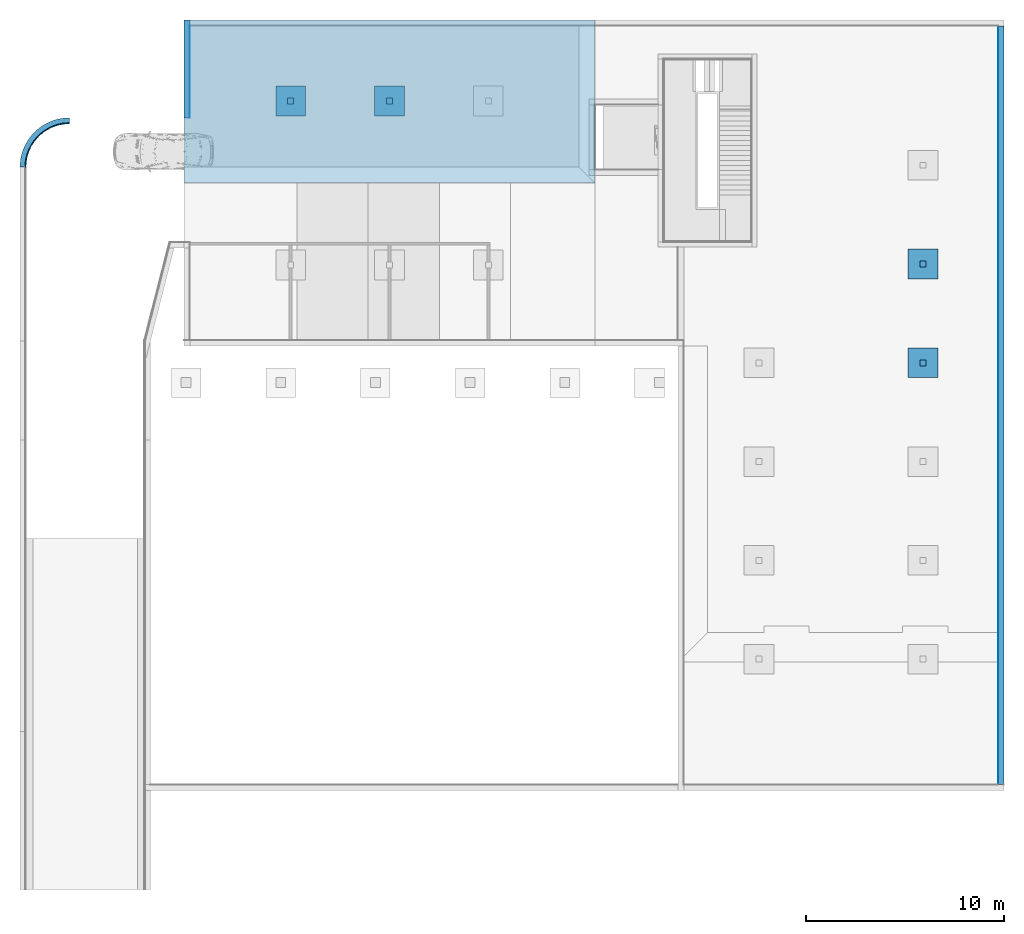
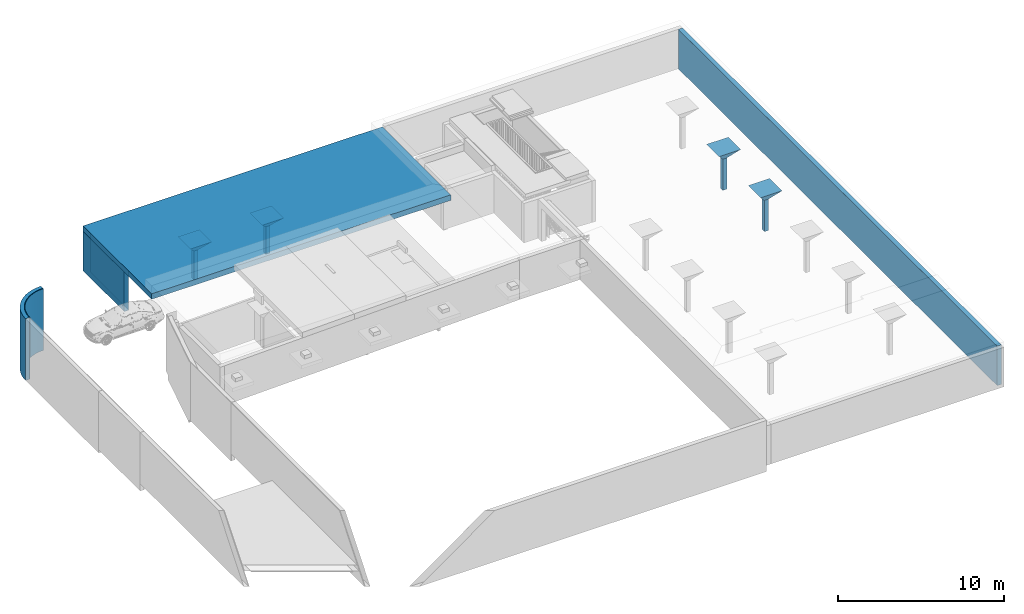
# One storey, part 4 of 7: 15 building element parts, 8 elements without a shape of their own.
"""IFC4 building model written with IfcOpenShell, lengths in millimetres."""

from ifc_helpers import new_model, entity, si_unit, converted_unit, derived_unit, direction, frame, origin_with_axes, place, context, subcontext, project, spatial, polygons, material, type_object, element, aggregate, save


model = new_model("IFC4")

# Units and contexts
model_context = context("Model", 3, precision=0.01, world=origin_with_axes(), true_north=direction((0.0, 1.0)))
body_context = subcontext(model_context, "Body", "Model", "MODEL_VIEW")
ifc_project = project(units=[si_unit("LENGTHUNIT", "METRE", prefix="MILLI"), si_unit("AREAUNIT", "SQUARE_METRE"), si_unit("VOLUMEUNIT", "CUBIC_METRE"), converted_unit("PLANEANGLEUNIT", "DEGREE", entity("IfcPlaneAngleMeasure", 0.0174532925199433), si_unit("PLANEANGLEUNIT", "RADIAN"), dimensions=[0, 0, 0, 0, 0, 0, 0]), converted_unit("TIMEUNIT", "Year", entity("IfcTimeMeasure", 31557600.0), si_unit("TIMEUNIT", "SECOND"), dimensions=[0, 0, 1, 0, 0, 0, 0]), si_unit("MASSUNIT", "GRAM", prefix="KILO"), si_unit("THERMODYNAMICTEMPERATUREUNIT", "DEGREE_CELSIUS"), si_unit("LUMINOUSINTENSITYUNIT", "LUMEN"), si_unit("ENERGYUNIT", "JOULE", prefix="MEGA"), derived_unit("THERMALCONDUCTANCEUNIT", [(si_unit("POWERUNIT", "WATT"), 1), (si_unit("LENGTHUNIT", "METRE"), -1), (si_unit("THERMODYNAMICTEMPERATUREUNIT", "KELVIN"), -1)]), derived_unit("SPECIFICHEATCAPACITYUNIT", [(si_unit("ENERGYUNIT", "JOULE"), 1), (si_unit("MASSUNIT", "GRAM", prefix="KILO"), -1), (si_unit("THERMODYNAMICTEMPERATUREUNIT", "KELVIN"), -1)]), derived_unit("MASSDENSITYUNIT", [(si_unit("MASSUNIT", "GRAM", prefix="KILO"), 1), (si_unit("VOLUMEUNIT", "CUBIC_METRE"), -1)])], contexts=[model_context])

# Site, building, storey
site_placement = place(None, origin_with_axes())
site = spatial("IfcSite", under=ifc_project, at=site_placement, Name="Gelände", CompositionType="ELEMENT")
building_placement = place(site_placement, origin_with_axes())
building = spatial("IfcBuilding", under=site, at=building_placement, Name="Gebäude", CompositionType="ELEMENT")
storey_placement = place(building_placement, frame((0.0, 0.0, -3900.000000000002), z_axis=(0.0, 0.0, 1.0), x_axis=(1.0, 0.0, 0.0)))
storey = spatial("IfcBuildingStorey", under=building, at=storey_placement, Name="UG", CompositionType="ELEMENT", Elevation=-3900.0)

# Wall, building element parts
wall_type_1 = type_object("IfcWallType", Name="Aussenwand Typ 03 301", PredefinedType="NOTDEFINED")
wall_1_placement = place(storey_placement, frame((32928.99744477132, 39447.61122469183, 600.0000000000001), z_axis=(0.0, 0.0, 1.0), x_axis=(-6.747447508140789e-07, -0.9999999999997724, 0.0)))
wall_1 = element("IfcWall", 1, at=wall_1_placement, inside=storey, type_object=wall_type_1, Name="Wand-013", PredefinedType="NOTDEFINED")
ifc_material_1 = material(Name="Anstrich Innen")
building_element_part_1_placement = place(wall_1_placement, origin_with_axes())
building_element_part_1 = element("IfcBuildingElementPart", 2, at=building_element_part_1_placement, material=ifc_material_1, Name="Anstrich Innen", PredefinedType="NOTDEFINED", context=body_context, shape_type="Tessellation", body=[
    polygons([(38699.01414580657, -300.0000000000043, 2900.000051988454), (301.000404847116, -299.9999999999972, 2900.000051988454), (301.0004061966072, -300.9999999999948, 2900.000051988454), (38699.01414648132, -301.0000000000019, 2900.000051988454), (38699.01414580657, -300.0000000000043, 0.0), (301.000404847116, -299.9999999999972, 0.0), (301.0004061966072, -300.9999999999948, 0.0), (38699.01414648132, -301.0000000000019, 0.0)], [[[1, 2, 3, 4]], [[5, 6, 2, 1]], [[3, 2, 6, 7]], [[4, 3, 7, 8]], [[4, 8, 5, 1]], [[8, 7, 6, 5]]], closed=True),
])
ifc_material_2 = material(Name="Beton bewehrt")
building_element_part_2_placement = place(wall_1_placement, origin_with_axes())
building_element_part_2 = element("IfcBuildingElementPart", 3, at=building_element_part_2_placement, material=ifc_material_2, Name="Beton bewehrt", PredefinedType="NOTDEFINED", context=body_context, shape_type="Tessellation", body=[
    polygons([(38700.01394338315, 0.0, 2900.000051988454), (300.0000000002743, 0.0, 2900.000051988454), (300.0004048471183, -299.9999999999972, 2900.000051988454), (38700.01414580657, -300.0000000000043, 2900.000051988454), (38700.01394338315, 0.0, 0.0), (300.0000000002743, 0.0, 0.0), (300.0004048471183, -299.9999999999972, 0.0), (38700.01414580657, -300.0000000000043, 0.0)], [[[1, 2, 3, 4]], [[5, 6, 2, 1]], [[3, 2, 6, 7]], [[4, 3, 7, 8]], [[4, 8, 5, 1]], [[8, 7, 6, 5]]], closed=True),
])
aggregate(wall_1, [building_element_part_1, building_element_part_2])

# Footing, building element parts
footing_type_1 = type_object("IfcFootingType", Name="Verschiedene Strukturen - 2 Segmente - 1500 x 1500 x 2862 (2146+715)", PredefinedType="NOTDEFINED")
footing_1_placement = place(storey_placement, frame((-3171.002507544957, 35347.59725747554, 38.1333335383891), z_axis=(0.0, 0.0, 1.0), x_axis=(1.0, 0.0, 0.0)))
footing_1 = element("IfcFooting", 4, at=footing_1_placement, inside=storey, type_object=footing_type_1, Name="Stütze-014", PredefinedType="NOTDEFINED")
building_element_part_3_placement = place(footing_1_placement, origin_with_axes())
building_element_part_3 = element("IfcBuildingElementPart", 5, at=building_element_part_3_placement, material=ifc_material_2, Name="Beton bewehrt", PredefinedType="NOTDEFINED", context=body_context, shape_type="Tessellation", body=[
    polygons([(-149.9999999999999, -149.9999999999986, 2146.400000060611), (-149.9999999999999, -149.9999999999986, 0.0), (149.9999999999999, -149.9999999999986, 0.0), (149.9999999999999, -149.9999999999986, 2146.400000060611), (-149.9999999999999, 149.9999999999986, 2146.400000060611), (-149.9999999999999, 149.9999999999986, 0.0), (149.9999999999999, 149.9999999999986, 0.0), (149.9999999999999, 149.9999999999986, 2146.400000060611)], [[[1, 2, 3, 4]], [[5, 6, 2, 1]], [[3, 2, 6, 7]], [[4, 3, 7, 8]], [[5, 1, 4, 8]], [[8, 7, 6, 5]]], closed=True),
])
building_element_part_4_placement = place(footing_1_placement, origin_with_axes())
building_element_part_4 = element("IfcBuildingElementPart", 6, at=building_element_part_4_placement, material=ifc_material_2, Name="Beton bewehrt", PredefinedType="NOTDEFINED", context=body_context, shape_type="Tessellation", body=[
    polygons([(750.0, -750.0, 2861.866666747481), (-750.0, -750.0, 2861.866666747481), (-149.9999999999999, -149.9999999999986, 2146.400000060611), (149.9999999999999, -149.9999999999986, 2146.400000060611), (750.0, 750.0, 2861.866666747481), (-750.0, 750.0, 2861.866666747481), (-149.9999999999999, 149.9999999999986, 2146.400000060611), (149.9999999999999, 149.9999999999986, 2146.400000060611)], [[[1, 2, 3, 4]], [[5, 6, 2, 1]], [[2, 6, 7, 3]], [[8, 4, 3, 7]], [[5, 1, 4, 8]], [[6, 5, 8, 7]]], closed=True),
])
aggregate(footing_1, [building_element_part_3, building_element_part_4])

footing_type_2 = type_object("IfcFootingType", Name="Verschiedene Strukturen - 2 Segmente - 1500 x 1500 x 2715 (2036+679)", PredefinedType="NOTDEFINED")
footing_2_placement = place(storey_placement, frame((1828.997494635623, 35347.59725747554, 184.7999999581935), z_axis=(0.0, 0.0, 1.0), x_axis=(1.0, 0.0, 0.0)))
footing_2 = element("IfcFooting", 7, at=footing_2_placement, inside=storey, type_object=footing_type_2, Name="Stütze-014", PredefinedType="NOTDEFINED")
building_element_part_5_placement = place(footing_2_placement, origin_with_axes())
building_element_part_5 = element("IfcBuildingElementPart", 8, at=building_element_part_5_placement, material=ifc_material_2, Name="Beton bewehrt", PredefinedType="NOTDEFINED", context=body_context, shape_type="Tessellation", body=[
    polygons([(-149.9999999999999, -149.9999999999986, 2036.400000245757), (-149.9999999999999, -149.9999999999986, 0.0), (149.9999999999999, -149.9999999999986, 0.0), (149.9999999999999, -149.9999999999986, 2036.400000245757), (-149.9999999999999, 149.9999999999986, 2036.400000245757), (-149.9999999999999, 149.9999999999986, 0.0), (149.9999999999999, 149.9999999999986, 0.0), (149.9999999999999, 149.9999999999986, 2036.400000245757)], [[[1, 2, 3, 4]], [[5, 6, 2, 1]], [[3, 2, 6, 7]], [[4, 3, 7, 8]], [[5, 1, 4, 8]], [[8, 7, 6, 5]]], closed=True),
])
building_element_part_6_placement = place(footing_2_placement, origin_with_axes())
building_element_part_6 = element("IfcBuildingElementPart", 9, at=building_element_part_6_placement, material=ifc_material_2, Name="Beton bewehrt", PredefinedType="NOTDEFINED", context=body_context, shape_type="Tessellation", body=[
    polygons([(750.0000000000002, -750.0, 2715.200000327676), (-750.0, -750.0, 2715.200000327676), (-149.9999999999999, -149.9999999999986, 2036.400000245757), (149.9999999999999, -149.9999999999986, 2036.400000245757), (750.0000000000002, 750.0, 2715.200000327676), (-750.0, 750.0, 2715.200000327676), (-149.9999999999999, 149.9999999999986, 2036.400000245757), (149.9999999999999, 149.9999999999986, 2036.400000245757)], [[[1, 2, 3, 4]], [[5, 6, 2, 1]], [[2, 6, 7, 3]], [[8, 4, 3, 7]], [[5, 1, 4, 8]], [[6, 5, 8, 7]]], closed=True),
])
aggregate(footing_2, [building_element_part_5, building_element_part_6])

footing_type_3 = type_object("IfcFootingType", Name="Verschiedene Strukturen - 2 Segmente - 1500 x 1500 x 3064 (2298+766)", PredefinedType="NOTDEFINED")
footing_3_placement = place(storey_placement, frame((28828.99742092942, 27097.59728131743, 436.000000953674), z_axis=(0.0, 0.0, 1.0), x_axis=(0.0, -1.0, 0.0)))
footing_3 = element("IfcFooting", 10, at=footing_3_placement, inside=storey, type_object=footing_type_3, Name="Stütze-014", PredefinedType="NOTDEFINED")
building_element_part_7_placement = place(footing_3_placement, origin_with_axes())
building_element_part_7 = element("IfcBuildingElementPart", 11, at=building_element_part_7_placement, material=ifc_material_2, Name="Beton bewehrt", PredefinedType="NOTDEFINED", context=body_context, shape_type="Tessellation", body=[
    polygons([(149.9999999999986, 149.9999999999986, 2298.000038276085), (149.9999999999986, 149.9999999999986, 0.0), (-149.9999999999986, 149.9999999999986, 0.0), (-149.9999999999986, 149.9999999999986, 2298.000038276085), (149.9999999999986, -149.9999999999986, 2298.000038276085), (149.9999999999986, -149.9999999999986, 0.0), (-149.9999999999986, -149.9999999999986, 0.0), (-149.9999999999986, -149.9999999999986, 2298.000038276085)], [[[1, 2, 3, 4]], [[5, 6, 2, 1]], [[3, 2, 6, 7]], [[4, 3, 7, 8]], [[5, 1, 4, 8]], [[8, 7, 6, 5]]], closed=True),
])
building_element_part_8_placement = place(footing_3_placement, origin_with_axes())
building_element_part_8 = element("IfcBuildingElementPart", 12, at=building_element_part_8_placement, material=ifc_material_2, Name="Beton bewehrt", PredefinedType="NOTDEFINED", context=body_context, shape_type="Tessellation", body=[
    polygons([(-750.0, 750.0000000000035, 3064.00005103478), (750.0, 750.0, 3064.00005103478), (149.9999999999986, 149.9999999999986, 2298.000038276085), (-149.9999999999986, 149.9999999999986, 2298.000038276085), (-750.0, -749.9999999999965, 3064.00005103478), (750.0, -750.0, 3064.00005103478), (149.9999999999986, -149.9999999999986, 2298.000038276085), (-149.9999999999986, -149.9999999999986, 2298.000038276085)], [[[1, 2, 3, 4]], [[5, 6, 2, 1]], [[2, 6, 7, 3]], [[8, 4, 3, 7]], [[5, 1, 4, 8]], [[6, 5, 8, 7]]], closed=True),
])
aggregate(footing_3, [building_element_part_7, building_element_part_8])

footing_4_placement = place(storey_placement, frame((28828.99742092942, 22097.59728131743, 436.000000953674), z_axis=(0.0, 0.0, 1.0), x_axis=(0.0, -1.0, 0.0)))
footing_4 = element("IfcFooting", 13, at=footing_4_placement, inside=storey, type_object=footing_type_3, Name="Stütze-014", PredefinedType="NOTDEFINED")
building_element_part_9_placement = place(footing_4_placement, origin_with_axes())
building_element_part_9 = element("IfcBuildingElementPart", 14, at=building_element_part_9_placement, material=ifc_material_2, Name="Beton bewehrt", PredefinedType="NOTDEFINED", context=body_context, shape_type="Tessellation", body=[
    polygons([(149.9999999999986, 149.9999999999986, 2298.000038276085), (149.9999999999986, 149.9999999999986, 0.0), (-149.9999999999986, 149.9999999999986, 0.0), (-149.9999999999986, 149.9999999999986, 2298.000038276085), (149.9999999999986, -149.9999999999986, 2298.000038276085), (149.9999999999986, -149.9999999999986, 0.0), (-149.9999999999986, -149.9999999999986, 0.0), (-149.9999999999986, -149.9999999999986, 2298.000038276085)], [[[1, 2, 3, 4]], [[5, 6, 2, 1]], [[3, 2, 6, 7]], [[4, 3, 7, 8]], [[5, 1, 4, 8]], [[8, 7, 6, 5]]], closed=True),
])
building_element_part_10_placement = place(footing_4_placement, origin_with_axes())
building_element_part_10 = element("IfcBuildingElementPart", 15, at=building_element_part_10_placement, material=ifc_material_2, Name="Beton bewehrt", PredefinedType="NOTDEFINED", context=body_context, shape_type="Tessellation", body=[
    polygons([(-750.0, 750.0, 3064.00005103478), (750.0, 750.0, 3064.00005103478), (149.9999999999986, 149.9999999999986, 2298.000038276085), (-149.9999999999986, 149.9999999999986, 2298.000038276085), (-750.0, -750.0, 3064.00005103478), (750.0, -750.0, 3064.00005103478), (149.9999999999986, -149.9999999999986, 2298.000038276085), (-149.9999999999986, -149.9999999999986, 2298.000038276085)], [[[1, 2, 3, 4]], [[5, 6, 2, 1]], [[2, 6, 7, 3]], [[8, 4, 3, 7]], [[5, 1, 4, 8]], [[6, 5, 8, 7]]], closed=True),
])
aggregate(footing_4, [building_element_part_9, building_element_part_10])

# Slab, building element part
slab_type = type_object("IfcSlabType", Name="Geschossdecke Typ 08 401", PredefinedType="NOTDEFINED")
slab_placement = place(storey_placement, frame((-8571.004157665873, 31197.59699912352, 3300.00000028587), z_axis=(0.0, 0.0, 1.0), x_axis=(1.0, 0.0, 0.0)))
slab = element("IfcSlab", 16, at=slab_placement, inside=storey, type_object=slab_type, Name="Deckennr.-072", PredefinedType="NOTDEFINED")
building_element_part_11_placement = place(slab_placement, origin_with_axes())
building_element_part_11 = element("IfcBuildingElementPart", 17, at=building_element_part_11_placement, material=ifc_material_2, Name="Beton bewehrt", PredefinedType="NOTDEFINED", context=body_context, shape_type="Tessellation", body=[
    polygons([(0.0, 0.0, 0.0), (0.0, 0.0, -400.0000000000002), (20800.00278412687, 0.0, -400.0000000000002), (20800.00278412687, 0.0, 0.0), (0.0, 8250.000258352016, 0.0), (0.0, 8250.000258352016, -400.0000000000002), (20800.00278412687, 8250.000258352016, -400.0000000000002), (20800.00278412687, 8250.000258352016, 0.0)], [[[1, 2, 3, 4]], [[5, 6, 2, 1]], [[7, 3, 2, 6]], [[4, 3, 7, 8]], [[8, 5, 1, 4]], [[8, 7, 6, 5]]], closed=True),
])
aggregate(slab, [building_element_part_11])

# Wall, building element parts
wall_2_placement = place(storey_placement, frame((-8571.002555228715, 34497.59725747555, 2.85869994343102e-07), z_axis=(0.0, 0.0, 1.0), x_axis=(-3.237246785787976e-07, 0.9999999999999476, 0.0)))
wall_2 = element("IfcWall", 18, at=wall_2_placement, inside=storey, type_object=wall_type_1, Name="Wand-013", PredefinedType="NOTDEFINED")
building_element_part_12_placement = place(wall_2_placement, origin_with_axes())
building_element_part_12 = element("IfcBuildingElementPart", 19, at=building_element_part_12_placement, material=ifc_material_2, Name="Beton bewehrt", PredefinedType="NOTDEFINED", context=body_context, shape_type="Tessellation", body=[
    polygons([(4950.000000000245, 0.0, 2900.000051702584), (0.0, 0.0, 2900.000051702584), (0.0, -300.0000000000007, 2900.000051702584), (4949.999902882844, -299.9999999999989, 2900.000051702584), (4950.000000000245, 0.0, 0.0), (0.0, 0.0, 0.0), (0.0, -300.0000000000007, 0.0), (4949.999902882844, -299.9999999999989, 0.0)], [[[1, 2, 3, 4]], [[5, 6, 2, 1]], [[3, 2, 6, 7]], [[4, 3, 7, 8]], [[4, 8, 5, 1]], [[8, 7, 6, 5]]], closed=True),
])
building_element_part_13_placement = place(wall_2_placement, origin_with_axes())
building_element_part_13 = element("IfcBuildingElementPart", 20, at=building_element_part_13_placement, material=ifc_material_1, Name="Anstrich Innen", PredefinedType="NOTDEFINED", context=body_context, shape_type="Tessellation", body=[
    polygons([(4649.999902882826, -300.0000000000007, 2899.0), (4649.999902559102, -301.0000000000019, 2899.0), (4649.999902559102, -301.0000000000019, 0.0), (4649.999902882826, -300.0000000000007, 0.0), (0.0, -301.0000000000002, 2899.0), (0.0, -300.0000000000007, 2899.0), (0.0, -301.0000000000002, 0.0), (0.0, -300.0000000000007, 0.0)], [[[1, 2, 3, 4]], [[5, 2, 1, 6]], [[2, 5, 7, 3]], [[4, 3, 7, 8]], [[6, 1, 4, 8]], [[5, 6, 8, 7]]], closed=True),
])
aggregate(wall_2, [building_element_part_12, building_element_part_13])

wall_type_2 = type_object("IfcWallType", Name="Aussenwand Typ 04 300", PredefinedType="NOTDEFINED")
wall_3_placement = place(storey_placement, frame((-14371.00255522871, 34497.59725747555, -640.0000011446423), z_axis=(0.0, 0.0, 1.0), x_axis=(-1.0, 0.0, 0.0)))
wall_3 = element("IfcWall", 21, at=wall_3_placement, inside=storey, type_object=wall_type_2, Name="Wand-013", PredefinedType="NOTDEFINED")
ifc_material_3 = material(Name="Sichtbeton")
building_element_part_14_placement = place(wall_3_placement, origin_with_axes())
building_element_part_14 = element("IfcBuildingElementPart", 22, at=building_element_part_14_placement, material=ifc_material_3, Name="Sichtbeton", PredefinedType="NOTDEFINED", context=body_context, shape_type="Tessellation", body=[
    polygons([(71.10637007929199, 259.999999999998, 0.0), (71.10637007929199, 259.999999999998, 4540.000053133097), (0.0, 259.999999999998, 4540.000053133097), (0.0, 259.999999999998, 0.0), (213.0327899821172, 269.0196894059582, 0.0), (213.0327899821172, 269.0196894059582, 4540.000053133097), (69.83661347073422, 299.9999999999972, 4540.000053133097), (0.0, 299.9999999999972, 4540.000053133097), (0.0, 299.9999999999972, 0.0), (69.83661347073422, 299.9999999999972, 0.0), (354.1014020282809, 287.0227491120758, 0.0), (354.1014020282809, 287.0227491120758, 4540.000053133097), (209.2286330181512, 308.8586235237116, 4540.000053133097), (209.2286330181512, 308.8586235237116, 0.0), (493.7441727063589, 313.9366871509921, 0.0), (493.7441727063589, 313.9366871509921, 4540.000053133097), (347.7781627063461, 326.5402000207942, 4540.000053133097), (347.7781627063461, 326.5402000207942, 0.0), (631.3988098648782, 349.6531305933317, 0.0), (631.3988098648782, 349.6531305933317, 4540.000053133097), (484.9273124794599, 352.9735320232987, 4540.000053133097), (484.9273124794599, 352.9735320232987, 0.0), (766.5110268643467, 394.0282619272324, 0.0), (766.5110268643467, 394.0282619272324, 4540.000053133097), (620.1238311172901, 388.0521818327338, 4540.000053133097), (620.1238311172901, 388.0521818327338, 0.0), (898.5367744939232, 446.8833981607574, 0.0), (898.5367744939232, 446.8833981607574, 4540.000053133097), (752.8233299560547, 431.634900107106, 4540.000053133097), (752.8233299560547, 431.634900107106, 0.0), (1026.944431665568, 508.0057103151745, 0.0), (1026.944431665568, 508.0057103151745, 4540.000053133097), (882.4914749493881, 483.5461946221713, 4540.000053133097), (882.4914749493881, 483.5461946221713, 0.0), (1151.216946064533, 577.1490804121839, 0.0), (1151.216946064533, 577.1490804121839, 4540.000053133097), (1008.606138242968, 543.5770369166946, 4540.000053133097), (1008.606138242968, 543.5770369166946, 0.0), (1270.853916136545, 654.0350925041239, 0.0), (1270.853916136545, 654.0350925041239, 4540.000053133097), (1130.659500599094, 611.4857039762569, 4540.000053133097), (1130.659500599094, 611.4857039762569, 0.0), (1385.373606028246, 738.3541537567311, 0.0), (1385.373606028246, 738.3541537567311, 4540.000053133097), (1248.160096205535, 686.9987515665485, 4540.000053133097), (1248.160096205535, 686.9987515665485, 0.0), (1494.314885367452, 829.7667410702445, 0.0), (1494.314885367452, 829.7667410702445, 4540.000053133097), (1360.634791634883, 769.8121152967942, 4540.000053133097), (1360.634791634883, 769.8121152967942, 0.0), (1597.239086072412, 927.9047682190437, 0.0), (1597.239086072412, 927.9047682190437, 4540.000053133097), (1467.63069098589, 859.592334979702, 4540.000053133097), (1467.63069098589, 859.592334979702, 0.0), (1693.731768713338, 1032.373068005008, 0.0), (1693.731768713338, 1032.373068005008, 4540.000053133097), (1568.716959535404, 955.9778973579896, 4540.000053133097), (1568.716959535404, 955.9778973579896, 0.0), (1783.404391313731, 1142.750983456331, 0.0), (1783.404391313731, 1142.750983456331, 4540.000053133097), (1663.486558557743, 1058.580691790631, 4540.000053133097), (1663.486558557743, 1058.580691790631, 0.0), (1865.895873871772, 1258.594061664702, 0.0), (1865.895873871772, 1258.594061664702, 4540.000053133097), (1751.557884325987, 1166.987573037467, 4540.000053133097), (1751.557884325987, 1166.987573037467, 0.0), (1940.874052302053, 1379.435843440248, 0.0), (1940.874052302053, 1379.435843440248, 4540.000053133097), (1832.57630469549, 1280.76202484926, 4540.000053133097), (1832.57630469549, 1280.76202484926, 0.0), (2008.037015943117, 1504.789741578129, 0.0), (2008.037015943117, 1504.789741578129, 4540.000053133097), (1906.215587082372, 1399.445917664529, 4540.000053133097), (1906.215587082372, 1399.445917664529, 0.0), (2067.114323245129, 1634.151000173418, 0.0), (2067.114323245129, 1634.151000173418, 4540.000053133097), (1972.179212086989, 1522.561353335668, 4540.000053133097), (1972.179212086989, 1522.561353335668, 0.0), (2117.868090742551, 1766.998727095, 0.0), (2117.868090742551, 1766.998727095, 4540.000053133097), (2030.201567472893, 1649.612589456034, 4540.000053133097), (2030.201567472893, 1649.612589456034, 0.0), (2160.0939509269, 1902.797991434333, 0.0), (2160.0939509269, 1902.797991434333, 4540.000053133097), (2080.049017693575, 1780.088035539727, 4540.000053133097), (2080.049017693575, 1780.088035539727, 0.0), (2193.621875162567, 2041.001977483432, 0.0), (2193.621875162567, 2041.001977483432, 4540.000053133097), (2121.520844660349, 1913.462313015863, 4540.000053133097), (2121.520844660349, 1913.462313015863, 0.0), (2218.316858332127, 2181.054186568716, 0.0), (2218.316858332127, 2181.054186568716, 4540.000053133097), (2154.450055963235, 2049.198370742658, 4540.000053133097), (2154.450055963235, 2049.198370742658, 0.0), (2234.079462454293, 2322.390677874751, 0.0), (2234.079462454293, 2322.390677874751, 4540.000053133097), (2178.704057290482, 2186.749647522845, 4540.000053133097), (2178.704057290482, 2186.749647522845, 0.0), (2240.846217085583, 2464.442339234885, 0.0), (2240.846217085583, 2464.442339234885, 4540.000053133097), (2194.185186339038, 2325.562272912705, 4540.000053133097), (2194.185186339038, 2325.562272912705, 0.0), (2240.000000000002, 2500.0, 0.0), (2240.000000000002, 2500.0, 4540.000053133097), (2200.831106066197, 2465.077297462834, 4540.000053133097), (2200.831106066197, 2465.077297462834, 0.0), (2199.999999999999, 2500.0, 0.0), (2199.999999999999, 2500.0, 4540.000053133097)], [[[1, 2, 3, 4]], [[5, 6, 2, 1]], [[2, 7, 8, 3]], [[4, 3, 8, 9]], [[10, 1, 4, 9]], [[11, 12, 6, 5]], [[6, 13, 7, 2]], [[14, 5, 1, 10]], [[7, 10, 9, 8]], [[15, 16, 12, 11]], [[12, 17, 13, 6]], [[18, 11, 5, 14]], [[13, 14, 10, 7]], [[19, 20, 16, 15]], [[16, 21, 17, 12]], [[22, 15, 11, 18]], [[17, 18, 14, 13]], [[23, 24, 20, 19]], [[20, 25, 21, 16]], [[26, 19, 15, 22]], [[21, 22, 18, 17]], [[27, 28, 24, 23]], [[24, 29, 25, 20]], [[30, 23, 19, 26]], [[25, 26, 22, 21]], [[31, 32, 28, 27]], [[28, 33, 29, 24]], [[34, 27, 23, 30]], [[29, 30, 26, 25]], [[35, 36, 32, 31]], [[32, 37, 33, 28]], [[38, 31, 27, 34]], [[33, 34, 30, 29]], [[39, 40, 36, 35]], [[36, 41, 37, 32]], [[42, 35, 31, 38]], [[37, 38, 34, 33]], [[43, 44, 40, 39]], [[40, 45, 41, 36]], [[46, 39, 35, 42]], [[41, 42, 38, 37]], [[47, 48, 44, 43]], [[44, 49, 45, 40]], [[50, 43, 39, 46]], [[45, 46, 42, 41]], [[51, 52, 48, 47]], [[48, 53, 49, 44]], [[54, 47, 43, 50]], [[49, 50, 46, 45]], [[55, 56, 52, 51]], [[52, 57, 53, 48]], [[58, 51, 47, 54]], [[53, 54, 50, 49]], [[59, 60, 56, 55]], [[56, 61, 57, 52]], [[62, 55, 51, 58]], [[57, 58, 54, 53]], [[63, 64, 60, 59]], [[60, 65, 61, 56]], [[66, 59, 55, 62]], [[61, 62, 58, 57]], [[67, 68, 64, 63]], [[64, 69, 65, 60]], [[70, 63, 59, 66]], [[65, 66, 62, 61]], [[71, 72, 68, 67]], [[68, 73, 69, 64]], [[74, 67, 63, 70]], [[69, 70, 66, 65]], [[75, 76, 72, 71]], [[72, 77, 73, 68]], [[78, 71, 67, 74]], [[73, 74, 70, 69]], [[79, 80, 76, 75]], [[76, 81, 77, 72]], [[82, 75, 71, 78]], [[77, 78, 74, 73]], [[83, 84, 80, 79]], [[80, 85, 81, 76]], [[86, 79, 75, 82]], [[81, 82, 78, 77]], [[87, 88, 84, 83]], [[84, 89, 85, 80]], [[90, 83, 79, 86]], [[85, 86, 82, 81]], [[91, 92, 88, 87]], [[88, 93, 89, 84]], [[94, 87, 83, 90]], [[89, 90, 86, 85]], [[95, 96, 92, 91]], [[92, 97, 93, 88]], [[98, 91, 87, 94]], [[93, 94, 90, 89]], [[99, 100, 96, 95]], [[96, 101, 97, 92]], [[102, 95, 91, 98]], [[97, 98, 94, 93]], [[103, 104, 100, 99]], [[100, 105, 101, 96]], [[106, 99, 95, 102]], [[101, 102, 98, 97]], [[103, 107, 108, 104]], [[104, 108, 105, 100]], [[107, 103, 99, 106]], [[105, 106, 102, 101]], [[108, 107, 106, 105]]], closed=True),
])
building_element_part_15_placement = place(wall_3_placement, origin_with_axes())
building_element_part_15 = element("IfcBuildingElementPart", 23, at=building_element_part_15_placement, material=ifc_material_2, Name="Beton bewehrt", PredefinedType="NOTDEFINED", context=body_context, shape_type="Tessellation", body=[
    polygons([(79.3597880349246, 0.0, 0.0), (79.3597880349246, 0.0, 4540.000053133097), (0.0, 0.0, 4540.000053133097), (0.0, 0.0, 0.0), (237.7598102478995, 10.06661764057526, 0.0), (237.7598102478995, 10.06661764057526, 4540.000053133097), (71.10637007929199, 259.999999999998, 4540.000053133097), (0.0, 259.999999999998, 4540.000053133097), (0.0, 259.999999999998, 0.0), (71.10637007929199, 259.999999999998, 0.0), (395.202457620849, 30.15931820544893, 0.0), (395.202457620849, 30.15931820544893, 4540.000053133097), (213.0327899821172, 269.0196894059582, 4540.000053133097), (213.0327899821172, 269.0196894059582, 0.0), (551.0537641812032, 60.19719548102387, 0.0), (551.0537641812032, 60.19719548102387, 4540.000053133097), (354.1014020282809, 287.0227491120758, 4540.000053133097), (354.1014020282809, 287.0227491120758, 0.0), (704.6861717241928, 100.0592975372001, 0.0), (704.6861717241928, 100.0592975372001, 4540.000053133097), (493.7441727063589, 313.9366871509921, 4540.000053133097), (493.7441727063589, 313.9366871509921, 0.0), (855.4810567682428, 149.5851137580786, 0.0), (855.4810567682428, 149.5851137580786, 4540.000053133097), (631.3988098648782, 349.6531305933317, 4540.000053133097), (631.3988098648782, 349.6531305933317, 0.0), (1002.831221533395, 208.5752211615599, 0.0), (1002.831221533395, 208.5752211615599, 4540.000053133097), (766.5110268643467, 394.0282619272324, 4540.000053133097), (766.5110268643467, 394.0282619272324, 0.0), (1146.143338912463, 276.7920874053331, 0.0), (1146.143338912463, 276.7920874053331, 4540.000053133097), (898.5367744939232, 446.8833981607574, 4540.000053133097), (898.5367744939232, 446.8833981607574, 0.0), (1284.840341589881, 353.9610272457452, 0.0), (1284.840341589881, 353.9610272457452, 4540.000053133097), (1026.944431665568, 508.0057103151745, 4540.000053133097), (1026.944431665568, 508.0057103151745, 0.0), (1418.363745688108, 439.7713085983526, 0.0), (1418.363745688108, 439.7713085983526, 4540.000053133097), (1151.216946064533, 577.1490804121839, 4540.000053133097), (1151.216946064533, 577.1490804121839, 0.0), (1546.175899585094, 533.8774037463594, 0.0), (1546.175899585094, 533.8774037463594, 4540.000053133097), (1270.853916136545, 654.0350925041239, 4540.000053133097), (1270.853916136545, 654.0350925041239, 0.0), (1667.762148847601, 635.9003806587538, 0.0), (1667.762148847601, 635.9003806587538, 4540.000053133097), (1385.373606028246, 738.3541537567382, 4540.000053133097), (1385.373606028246, 738.3541537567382, 0.0), (1782.63290856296, 745.4294288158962, 0.0), (1782.63290856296, 745.4294288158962, 4540.000053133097), (1494.314885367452, 829.7667410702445, 4540.000053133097), (1494.314885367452, 829.7667410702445, 0.0), (1890.325634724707, 862.0235133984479, 0.0), (1890.325634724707, 862.0235133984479, 4540.000053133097), (1597.239086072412, 927.9047682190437, 4540.000053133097), (1597.239086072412, 927.9047682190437, 0.0), (1990.406686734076, 985.2131511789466, 0.0), (1990.406686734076, 985.2131511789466, 4540.000053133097), (1693.731768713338, 1032.373068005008, 4540.000053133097), (1693.731768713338, 1032.373068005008, 0.0), (2082.473073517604, 1114.502300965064, 0.0), (2082.473073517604, 1114.502300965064, 4540.000053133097), (1783.404391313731, 1142.750983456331, 4540.000053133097), (1783.404391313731, 1142.750983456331, 0.0), (2166.154076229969, 1249.370360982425, 0.0), (2166.154076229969, 1249.370360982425, 4540.000053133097), (1865.895873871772, 1258.594061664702, 4540.000053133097), (1865.895873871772, 1258.594061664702, 0.0), (2241.112741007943, 1389.274265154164, 0.0), (2241.112741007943, 1389.274265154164, 4540.000053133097), (1940.874052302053, 1379.435843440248, 4540.000053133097), (1940.874052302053, 1379.435843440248, 0.0), (2307.047235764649, 1533.650669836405, 0.0), (2307.047235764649, 1533.650669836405, 4540.000053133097), (2008.037015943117, 1504.789741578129, 4540.000053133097), (2008.037015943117, 1504.789741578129, 0.0), (2363.692065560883, 1681.918222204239, 0.0), (2363.692065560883, 1681.918222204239, 4540.000053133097), (2067.114323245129, 1634.151000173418, 4540.000053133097), (2067.114323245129, 1634.151000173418, 0.0), (2410.819141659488, 1833.479901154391, 0.0), (2410.819141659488, 1833.479901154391, 4540.000053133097), (2117.868090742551, 1766.998727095, 4540.000053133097), (2117.868090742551, 1766.998727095, 0.0), (2448.238699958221, 1987.725421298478, 0.0), (2448.238699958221, 1987.725421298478, 4540.000053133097), (2160.0939509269, 1902.797991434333, 4540.000053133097), (2160.0939509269, 1902.797991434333, 0.0), (2475.800065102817, 2144.033690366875, 0.0), (2475.800065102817, 2144.033690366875, 4540.000053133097), (2193.621875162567, 2041.001977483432, 4540.000053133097), (2193.621875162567, 2041.001977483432, 0.0), (2493.392257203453, 2301.775310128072, 0.0), (2493.392257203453, 2301.775310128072, 4540.000053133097), (2218.316858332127, 2181.054186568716, 4540.000053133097), (2218.316858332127, 2181.054186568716, 0.0), (2500.944438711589, 2460.315110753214, 0.0), (2500.944438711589, 2460.315110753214, 4540.000053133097), (2234.079462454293, 2322.390677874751, 4540.000053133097), (2234.079462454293, 2322.390677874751, 0.0), (2500.0, 2500.0, 0.0), (2500.0, 2500.0, 4540.000053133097), (2240.846217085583, 2464.442339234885, 4540.000053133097), (2240.846217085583, 2464.442339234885, 0.0), (2240.000000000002, 2500.0, 0.0), (2240.000000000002, 2500.0, 4540.000053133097)], [[[1, 2, 3, 4]], [[5, 6, 2, 1]], [[2, 7, 8, 3]], [[4, 3, 8, 9]], [[10, 1, 4, 9]], [[11, 12, 6, 5]], [[6, 13, 7, 2]], [[14, 5, 1, 10]], [[7, 10, 9, 8]], [[15, 16, 12, 11]], [[12, 17, 13, 6]], [[18, 11, 5, 14]], [[13, 14, 10, 7]], [[19, 20, 16, 15]], [[16, 21, 17, 12]], [[22, 15, 11, 18]], [[17, 18, 14, 13]], [[23, 24, 20, 19]], [[20, 25, 21, 16]], [[26, 19, 15, 22]], [[21, 22, 18, 17]], [[27, 28, 24, 23]], [[24, 29, 25, 20]], [[30, 23, 19, 26]], [[25, 26, 22, 21]], [[31, 32, 28, 27]], [[28, 33, 29, 24]], [[34, 27, 23, 30]], [[29, 30, 26, 25]], [[35, 36, 32, 31]], [[32, 37, 33, 28]], [[38, 31, 27, 34]], [[33, 34, 30, 29]], [[39, 40, 36, 35]], [[36, 41, 37, 32]], [[42, 35, 31, 38]], [[37, 38, 34, 33]], [[43, 44, 40, 39]], [[40, 45, 41, 36]], [[46, 39, 35, 42]], [[41, 42, 38, 37]], [[47, 48, 44, 43]], [[44, 49, 45, 40]], [[50, 43, 39, 46]], [[45, 46, 42, 41]], [[51, 52, 48, 47]], [[48, 53, 49, 44]], [[54, 47, 43, 50]], [[49, 50, 46, 45]], [[55, 56, 52, 51]], [[52, 57, 53, 48]], [[58, 51, 47, 54]], [[53, 54, 50, 49]], [[59, 60, 56, 55]], [[56, 61, 57, 52]], [[62, 55, 51, 58]], [[57, 58, 54, 53]], [[63, 64, 60, 59]], [[60, 65, 61, 56]], [[66, 59, 55, 62]], [[61, 62, 58, 57]], [[67, 68, 64, 63]], [[64, 69, 65, 60]], [[70, 63, 59, 66]], [[65, 66, 62, 61]], [[71, 72, 68, 67]], [[68, 73, 69, 64]], [[74, 67, 63, 70]], [[69, 70, 66, 65]], [[75, 76, 72, 71]], [[72, 77, 73, 68]], [[78, 71, 67, 74]], [[73, 74, 70, 69]], [[79, 80, 76, 75]], [[76, 81, 77, 72]], [[82, 75, 71, 78]], [[77, 78, 74, 73]], [[83, 84, 80, 79]], [[80, 85, 81, 76]], [[86, 79, 75, 82]], [[81, 82, 78, 77]], [[87, 88, 84, 83]], [[84, 89, 85, 80]], [[90, 83, 79, 86]], [[85, 86, 82, 81]], [[91, 92, 88, 87]], [[88, 93, 89, 84]], [[94, 87, 83, 90]], [[89, 90, 86, 85]], [[95, 96, 92, 91]], [[92, 97, 93, 88]], [[98, 91, 87, 94]], [[93, 94, 90, 89]], [[99, 100, 96, 95]], [[96, 101, 97, 92]], [[102, 95, 91, 98]], [[97, 98, 94, 93]], [[103, 104, 100, 99]], [[100, 105, 101, 96]], [[106, 99, 95, 102]], [[101, 102, 98, 97]], [[103, 107, 108, 104]], [[104, 108, 105, 100]], [[107, 103, 99, 106]], [[105, 106, 102, 101]], [[108, 107, 106, 105]]], closed=True),
])
aggregate(wall_3, [building_element_part_14, building_element_part_15])

save(model, "model.ifc")
